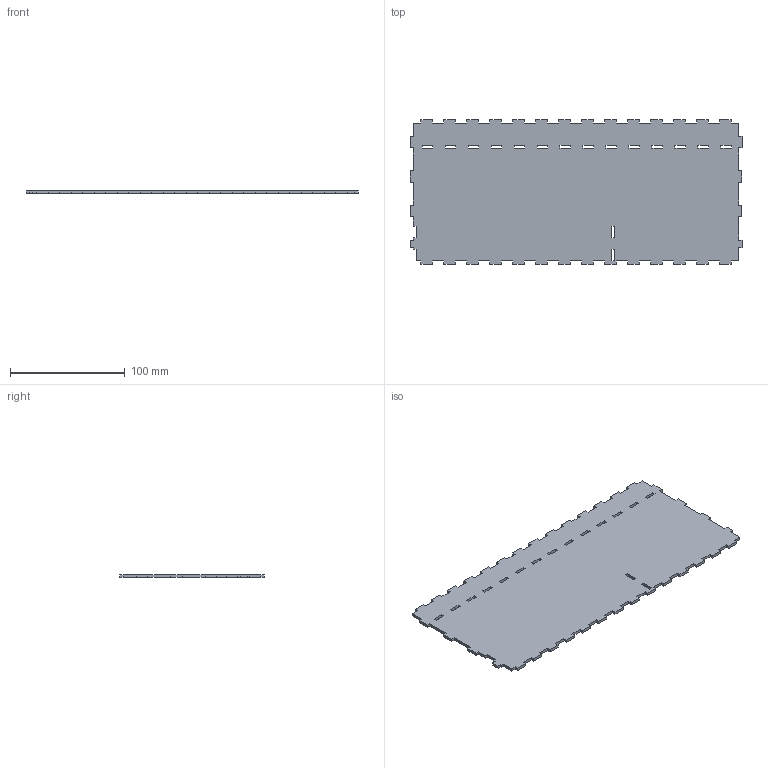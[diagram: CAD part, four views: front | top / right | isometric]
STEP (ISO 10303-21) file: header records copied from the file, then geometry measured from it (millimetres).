
FILE_DESCRIPTION (( 'STEP AP214' ), '1' );
FILE_NAME ('lado2largehole.STEP', '2025-06-15T00:42:10', ( '' ), ( '' ), 'SwSTEP 2.0', 'SolidWorks 2024', '' );
FILE_SCHEMA (( 'AUTOMOTIVE_DESIGN' ));
Length unit declared in the file: millimetre
Products named in the file (1): lado2largehole
Bounding box: 289 x 126 x 2.5 mm (x, y, z)
Volume: 86472.9 mm3; surface area: 72707.3 mm2
Topology: 1 solids, 1 shells, 220 faces, 654 edges, 436 vertices
Faces by surface type: plane 220
Entity records: 7305 total; most frequent: CARTESIAN_POINT 1311, ORIENTED_EDGE 1308, DIRECTION 1096, EDGE_CURVE 654, LINE 654, VECTOR 654, VERTEX_POINT 436, EDGE_LOOP 252
